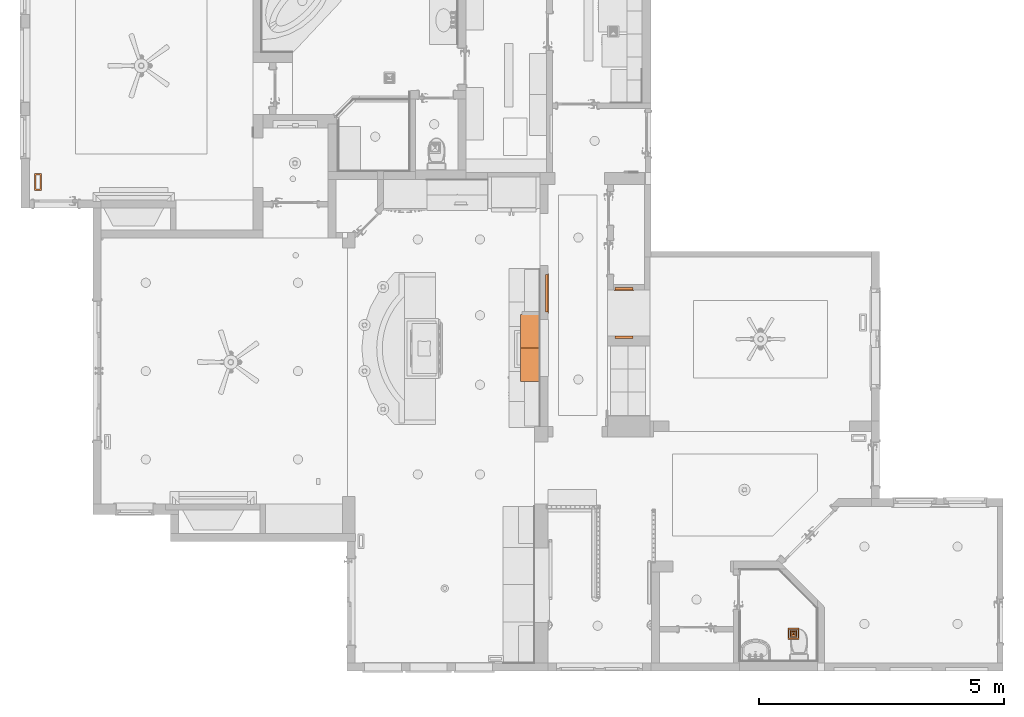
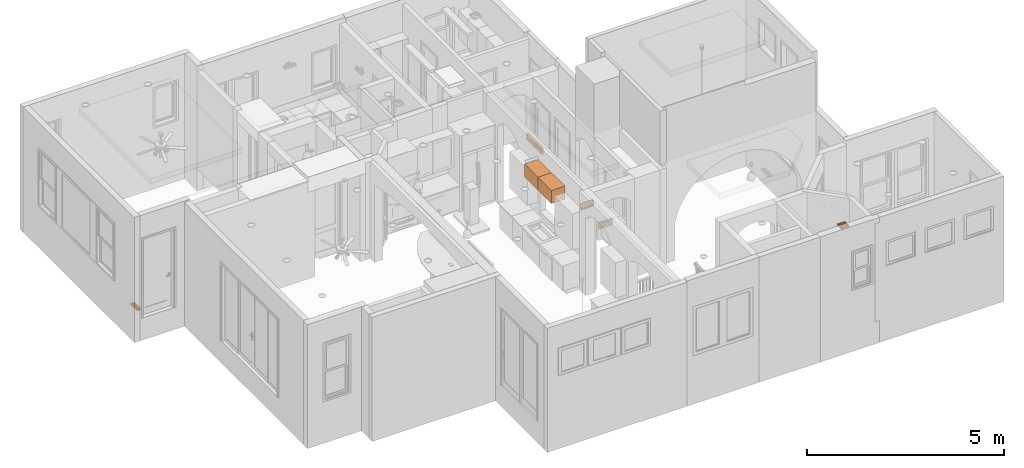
# One storey, part 59 of 77: 7 proxies.
"""IFC2X3 building model written with IfcOpenShell, lengths in inches."""

from ifc_helpers import new_model, entity, si_unit, converted_unit, derived_unit, money_unit, direction, frame, origin_with_axes, place, context, subcontext, project, spatial, open_shell, faceted_brep, surface_model, source, transform, mapped, type_object, element, save


model = new_model("IFC2X3")

# Units and contexts
model_context = context("Model", 3, precision=0.000393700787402, world=origin_with_axes(), true_north=direction((0.0, 1.0)))
body_context = subcontext(model_context, "Body", "Model", "MODEL_VIEW")
ifc_project = project(units=[converted_unit("LENGTHUNIT", "INCH", entity("IfcPositiveLengthMeasure", 0.0254), si_unit("LENGTHUNIT", "METRE"), dimensions=[1, 0, 0, 0, 0, 0, 0]), converted_unit("AREAUNIT", "SQUARE_FOOT", entity("IfcPositiveLengthMeasure", 0.09290304), si_unit("AREAUNIT", "SQUARE_METRE"), dimensions=[2, 0, 0, 0, 0, 0, 0]), si_unit("PLANEANGLEUNIT", "RADIAN"), si_unit("SOLIDANGLEUNIT", "STERADIAN"), money_unit("USD"), converted_unit("TIMEUNIT", "Year", entity("IfcTimeMeasure", 31556926.0), si_unit("TIMEUNIT", "SECOND"), dimensions=[0, 0, 1, 0, 0, 0, 0]), si_unit("MASSUNIT", "GRAM", prefix="KILO"), si_unit("THERMODYNAMICTEMPERATUREUNIT", "DEGREE_CELSIUS"), si_unit("LUMINOUSINTENSITYUNIT", "LUMEN"), si_unit("ENERGYUNIT", "JOULE", prefix="MEGA"), derived_unit("THERMALCONDUCTANCEUNIT", [(si_unit("POWERUNIT", "WATT"), 1), (si_unit("LENGTHUNIT", "METRE"), -1), (si_unit("THERMODYNAMICTEMPERATUREUNIT", "KELVIN"), -1)]), derived_unit("SPECIFICHEATCAPACITYUNIT", [(si_unit("ENERGYUNIT", "JOULE"), 1), (si_unit("MASSUNIT", "GRAM", prefix="KILO"), -1), (si_unit("THERMODYNAMICTEMPERATUREUNIT", "KELVIN"), -1)]), derived_unit("MASSDENSITYUNIT", [(si_unit("MASSUNIT", "GRAM", prefix="KILO"), 1), (si_unit("VOLUMEUNIT", "CUBIC_METRE"), -1)])], contexts=[model_context])

# Site, building, storey
site_placement = place(None, origin_with_axes())
site = spatial("IfcSite", under=ifc_project, at=site_placement, Name="Site", CompositionType="ELEMENT")
building_placement = place(site_placement, origin_with_axes())
building = spatial("IfcBuilding", under=site, at=building_placement, Name="Building", CompositionType="ELEMENT")
storey_placement = place(building_placement, frame((0.0, 0.0, 127.952755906), z_axis=(0.0, 0.0, 1.0), x_axis=(1.0, 0.0, 0.0)))
storey = spatial("IfcBuildingStorey", under=building, at=storey_placement, Name="Second Floor", CompositionType="ELEMENT", Elevation=127.953)

# Proxies
building_element_proxy_type_1 = type_object("IfcBuildingElementProxyType", Name="Rect Floor Register 25", PredefinedType="NOTDEFINED")
shared_shape_1 = source(origin_with_axes(), body_context, "Body", "SurfaceModel", [
    faceted_brep([(6.98818897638, 2.95669291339, 0.0), (-6.98818897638, 2.95669291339, 0.0), (-6.98818897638, 2.95669291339, 0.196850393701), (6.98818897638, 2.95669291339, 0.196850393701), (6.98818897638, -2.95669291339, 0.0), (-6.98818897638, -2.95669291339, 0.0), (5.61023622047, 1.57874015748, 0.0), (-5.61023622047, 1.57874015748, 0.0), (-5.61023622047, -1.57874015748, 0.0), (5.61023622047, -1.57874015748, 0.0), (-6.98818897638, -2.95669291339, 0.196850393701), (6.98818897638, -2.95669291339, 0.196850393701), (5.61023622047, 1.57874015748, 0.196850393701), (5.61023622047, -1.57874015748, 0.196850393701), (-5.61023622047, -1.57874015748, 0.196850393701), (-5.61023622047, 1.57874015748, 0.196850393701)], [[[0, 1, 2, 3]], [[0, 4, 5, 1], [6, 7, 8, 9]], [[1, 5, 10, 2]], [[3, 2, 10, 11], [12, 13, 14, 15]], [[4, 0, 3, 11]], [[5, 4, 11, 10]], [[7, 6, 12, 15]], [[8, 7, 15, 14]], [[9, 8, 14, 13]], [[6, 9, 13, 12]]]),
    surface_model("IfcShellBasedSurfaceModel", [(-5.57086614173, 1.47637795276, -0.787401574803), (5.57086614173, 1.47637795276, -0.787401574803), (5.57086614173, 1.47637795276, 0.196850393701), (-5.57086614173, 1.47637795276, 0.196850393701)], [open_shell([[[0, 1, 2, 3]]])]),
    surface_model("IfcShellBasedSurfaceModel", [(-5.57086614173, 0.492125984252, -0.787401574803), (5.57086614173, 0.492125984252, -0.787401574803), (5.57086614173, 0.492125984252, 0.196850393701), (-5.57086614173, 0.492125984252, 0.196850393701)], [open_shell([[[0, 1, 2, 3]]])]),
    surface_model("IfcShellBasedSurfaceModel", [(-5.57086614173, -0.492125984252, -0.787401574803), (5.57086614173, -0.492125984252, -0.787401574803), (5.57086614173, -0.492125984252, 0.196850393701), (-5.57086614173, -0.492125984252, 0.196850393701)], [open_shell([[[0, 1, 2, 3]]])]),
    surface_model("IfcShellBasedSurfaceModel", [(-5.57086614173, -1.47637795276, -0.787401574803), (5.57086614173, -1.47637795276, -0.787401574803), (5.57086614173, -1.47637795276, 0.196850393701), (-5.57086614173, -1.47637795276, 0.196850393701)], [open_shell([[[0, 1, 2, 3]]])]),
    surface_model("IfcShellBasedSurfaceModel", [(5.41338582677, -1.53937007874, -0.787401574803), (5.41338582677, 1.53937007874, -0.787401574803), (5.41338582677, 1.53937007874, 0.196850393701), (5.41338582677, -1.53937007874, 0.196850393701)], [open_shell([[[0, 1, 2, 3]]])]),
    surface_model("IfcShellBasedSurfaceModel", [(4.42913385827, -1.53937007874, -0.787401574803), (4.42913385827, 1.53937007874, -0.787401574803), (4.42913385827, 1.53937007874, 0.196850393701), (4.42913385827, -1.53937007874, 0.196850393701)], [open_shell([[[0, 1, 2, 3]]])]),
    surface_model("IfcShellBasedSurfaceModel", [(3.44488188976, -1.53937007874, -0.787401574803), (3.44488188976, 1.53937007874, -0.787401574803), (3.44488188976, 1.53937007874, 0.196850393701), (3.44488188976, -1.53937007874, 0.196850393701)], [open_shell([[[0, 1, 2, 3]]])]),
    surface_model("IfcShellBasedSurfaceModel", [(2.46062992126, -1.53937007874, -0.787401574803), (2.46062992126, 1.53937007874, -0.787401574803), (2.46062992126, 1.53937007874, 0.196850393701), (2.46062992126, -1.53937007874, 0.196850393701)], [open_shell([[[0, 1, 2, 3]]])]),
    surface_model("IfcShellBasedSurfaceModel", [(1.47637795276, -1.53937007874, -0.787401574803), (1.47637795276, 1.53937007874, -0.787401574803), (1.47637795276, 1.53937007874, 0.196850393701), (1.47637795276, -1.53937007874, 0.196850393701)], [open_shell([[[0, 1, 2, 3]]])]),
    surface_model("IfcShellBasedSurfaceModel", [(0.492125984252, -1.53937007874, -0.787401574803), (0.492125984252, 1.53937007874, -0.787401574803), (0.492125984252, 1.53937007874, 0.196850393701), (0.492125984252, -1.53937007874, 0.196850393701)], [open_shell([[[0, 1, 2, 3]]])]),
    surface_model("IfcShellBasedSurfaceModel", [(-0.492125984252, -1.53937007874, -0.787401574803), (-0.492125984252, 1.53937007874, -0.787401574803), (-0.492125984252, 1.53937007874, 0.196850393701), (-0.492125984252, -1.53937007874, 0.196850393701)], [open_shell([[[0, 1, 2, 3]]])]),
    surface_model("IfcShellBasedSurfaceModel", [(-1.47637795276, -1.53937007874, -0.787401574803), (-1.47637795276, 1.53937007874, -0.787401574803), (-1.47637795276, 1.53937007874, 0.196850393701), (-1.47637795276, -1.53937007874, 0.196850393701)], [open_shell([[[0, 1, 2, 3]]])]),
    surface_model("IfcShellBasedSurfaceModel", [(-2.46062992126, -1.53937007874, -0.787401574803), (-2.46062992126, 1.53937007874, -0.787401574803), (-2.46062992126, 1.53937007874, 0.196850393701), (-2.46062992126, -1.53937007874, 0.196850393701)], [open_shell([[[0, 1, 2, 3]]])]),
    surface_model("IfcShellBasedSurfaceModel", [(-3.44488188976, -1.53937007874, -0.787401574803), (-3.44488188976, 1.53937007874, -0.787401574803), (-3.44488188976, 1.53937007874, 0.196850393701), (-3.44488188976, -1.53937007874, 0.196850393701)], [open_shell([[[0, 1, 2, 3]]])]),
    surface_model("IfcShellBasedSurfaceModel", [(-4.42913385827, -1.53937007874, -0.787401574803), (-4.42913385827, 1.53937007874, -0.787401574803), (-4.42913385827, 1.53937007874, 0.196850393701), (-4.42913385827, -1.53937007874, 0.196850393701)], [open_shell([[[0, 1, 2, 3]]])]),
    surface_model("IfcShellBasedSurfaceModel", [(-5.41338582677, -1.53937007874, -0.787401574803), (-5.41338582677, 1.53937007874, -0.787401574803), (-5.41338582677, 1.53937007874, 0.196850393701), (-5.41338582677, -1.53937007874, 0.196850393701)], [open_shell([[[0, 1, 2, 3]]])]),
    surface_model("IfcShellBasedSurfaceModel", [(-5.61023622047, -1.57874015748, 0.0), (-5.61023622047, 1.57874015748, 0.0), (-5.61023622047, 1.57874015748, -1.96850393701), (-5.61023622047, -1.57874015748, -1.96850393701), (5.61023622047, 1.57874015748, 0.0), (5.61023622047, 1.57874015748, -1.96850393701), (5.61023622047, -1.57874015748, 0.0), (5.61023622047, -1.57874015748, -1.96850393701)], [open_shell([[[0, 1, 2, 3]], [[1, 4, 5, 2]], [[6, 0, 3, 7]], [[4, 6, 7, 5]]])]),
])
proxy_1_placement = place(storey_placement, frame((233.695525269, 406.416819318, 0.0), z_axis=(0.0, 0.0, 1.0), x_axis=(0.0, -1.0, 0.0)))
element("IfcBuildingElementProxy", 1, at=proxy_1_placement, inside=storey, type_object=building_element_proxy_type_1, Name="FU - 027", context=body_context, shape_type="MappedRepresentation", body=[
    mapped(shared_shape_1, transform((0.0, 0.0, 0.0))),
])
building_element_proxy_type_2 = type_object("IfcBuildingElementProxyType", Name="Sidewall Grille 25", PredefinedType="NOTDEFINED")
shared_shape_2 = source(origin_with_axes(), body_context, "Body", "SurfaceModel", [
    faceted_brep([(8.07775590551, -0.196850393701, -4.1092519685), (-8.07775590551, -0.196850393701, -4.1092519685), (-8.07775590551, 0.0, -4.1092519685), (8.07775590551, 0.0, -4.1092519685), (8.07775590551, -0.196850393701, 4.1092519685), (-8.07775590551, -0.196850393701, 4.1092519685), (7.09350393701, -0.196850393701, -3.125), (-7.09350393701, -0.196850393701, -3.125), (-7.09350393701, -0.196850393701, 3.125), (7.09350393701, -0.196850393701, 3.125), (-8.07775590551, 0.0, 4.1092519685), (8.07775590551, 0.0, 4.1092519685), (7.09350393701, 0.0, -3.125), (7.09350393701, 0.0, 3.125), (-7.09350393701, 0.0, 3.125), (-7.09350393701, 0.0, -3.125)], [[[0, 1, 2, 3]], [[0, 4, 5, 1], [6, 7, 8, 9]], [[1, 5, 10, 2]], [[3, 2, 10, 11], [12, 13, 14, 15]], [[4, 0, 3, 11]], [[5, 4, 11, 10]], [[7, 6, 12, 15]], [[8, 7, 15, 14]], [[9, 8, 14, 13]], [[6, 9, 13, 12]]]),
    surface_model("IfcShellBasedSurfaceModel", [(-7.05413385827, -0.196850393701, -2.95275590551), (7.05413385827, -0.196850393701, -2.95275590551), (7.05413385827, 0.787401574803, -2.95275590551), (-7.05413385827, 0.787401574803, -2.95275590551)], [open_shell([[[0, 1, 2, 3]]])]),
    surface_model("IfcShellBasedSurfaceModel", [(-7.05413385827, -0.196850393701, -0.984251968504), (7.05413385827, -0.196850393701, -0.984251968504), (7.05413385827, 0.787401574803, -0.984251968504), (-7.05413385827, 0.787401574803, -0.984251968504)], [open_shell([[[0, 1, 2, 3]]])]),
    surface_model("IfcShellBasedSurfaceModel", [(-7.05413385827, -0.196850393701, 0.984251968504), (7.05413385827, -0.196850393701, 0.984251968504), (7.05413385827, 0.787401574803, 0.984251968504), (-7.05413385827, 0.787401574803, 0.984251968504)], [open_shell([[[0, 1, 2, 3]]])]),
    surface_model("IfcShellBasedSurfaceModel", [(-7.05413385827, -0.196850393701, 2.95275590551), (7.05413385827, -0.196850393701, 2.95275590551), (7.05413385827, 0.787401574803, 2.95275590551), (-7.05413385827, 0.787401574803, 2.95275590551)], [open_shell([[[0, 1, 2, 3]]])]),
    surface_model("IfcShellBasedSurfaceModel", [(6.88976377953, -0.196850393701, 3.08562992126), (6.88976377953, -0.196850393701, -3.08562992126), (6.88976377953, 0.787401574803, -3.08562992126), (6.88976377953, 0.787401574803, 3.08562992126)], [open_shell([[[0, 1, 2, 3]]])]),
    surface_model("IfcShellBasedSurfaceModel", [(4.92125984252, -0.196850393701, 3.08562992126), (4.92125984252, -0.196850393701, -3.08562992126), (4.92125984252, 0.787401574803, -3.08562992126), (4.92125984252, 0.787401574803, 3.08562992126)], [open_shell([[[0, 1, 2, 3]]])]),
    surface_model("IfcShellBasedSurfaceModel", [(2.95275590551, -0.196850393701, 3.08562992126), (2.95275590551, -0.196850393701, -3.08562992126), (2.95275590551, 0.787401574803, -3.08562992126), (2.95275590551, 0.787401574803, 3.08562992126)], [open_shell([[[0, 1, 2, 3]]])]),
    surface_model("IfcShellBasedSurfaceModel", [(0.984251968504, -0.196850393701, 3.08562992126), (0.984251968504, -0.196850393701, -3.08562992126), (0.984251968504, 0.787401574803, -3.08562992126), (0.984251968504, 0.787401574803, 3.08562992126)], [open_shell([[[0, 1, 2, 3]]])]),
    surface_model("IfcShellBasedSurfaceModel", [(-0.984251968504, -0.196850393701, 3.08562992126), (-0.984251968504, -0.196850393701, -3.08562992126), (-0.984251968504, 0.787401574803, -3.08562992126), (-0.984251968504, 0.787401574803, 3.08562992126)], [open_shell([[[0, 1, 2, 3]]])]),
    surface_model("IfcShellBasedSurfaceModel", [(-2.95275590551, -0.196850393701, 3.08562992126), (-2.95275590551, -0.196850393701, -3.08562992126), (-2.95275590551, 0.787401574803, -3.08562992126), (-2.95275590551, 0.787401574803, 3.08562992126)], [open_shell([[[0, 1, 2, 3]]])]),
    surface_model("IfcShellBasedSurfaceModel", [(-4.92125984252, -0.196850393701, 3.08562992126), (-4.92125984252, -0.196850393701, -3.08562992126), (-4.92125984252, 0.787401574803, -3.08562992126), (-4.92125984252, 0.787401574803, 3.08562992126)], [open_shell([[[0, 1, 2, 3]]])]),
    surface_model("IfcShellBasedSurfaceModel", [(-6.88976377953, -0.196850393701, 3.08562992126), (-6.88976377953, -0.196850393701, -3.08562992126), (-6.88976377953, 0.787401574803, -3.08562992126), (-6.88976377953, 0.787401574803, 3.08562992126)], [open_shell([[[0, 1, 2, 3]]])]),
    surface_model("IfcShellBasedSurfaceModel", [(-7.09350393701, 0.0, -3.125), (-7.09350393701, 0.0, 3.125), (-7.09350393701, 1.96850393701, 3.125), (-7.09350393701, 1.96850393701, -3.125), (7.09350393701, 0.0, 3.125), (7.09350393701, 1.96850393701, 3.125), (7.09350393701, 0.0, -3.125), (7.09350393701, 1.96850393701, -3.125)], [open_shell([[[0, 1, 2, 3]], [[1, 4, 5, 2]], [[6, 0, 3, 7]], [[4, 6, 7, 5]]])]),
])
for number, where, z_axis, x_axis, name in (
    (2, (705.099270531, 282.410013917, 11.6092519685), (0.0, 0.0, 1.0), (-1.0, 0.0, 0.0), "FU - 004"),
    (3, (705.098895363, 319.40717231, 11.6092519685), (0.0, 0.0, 1.0), (1.0, 0.0, 0.0), "FU - 004"),
):
    element("IfcBuildingElementProxy", number, at=place(storey_placement, frame(where, z_axis=z_axis, x_axis=x_axis)), inside=storey, type_object=building_element_proxy_type_2, Name=name, context=body_context, shape_type="MappedRepresentation", body=[
        mapped(shared_shape_2, transform((0.0, 0.0, 0.0))),
    ])
building_element_proxy_type_3 = type_object("IfcBuildingElementProxyType", Name="Square Louver Face Ceiling Diffuser 25", PredefinedType="NOTDEFINED")
shared_shape_3 = source(origin_with_axes(), body_context, "Body", "SurfaceModel", [
    faceted_brep([(4.52755905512, 4.52755905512, 0.0), (-4.52755905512, 4.52755905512, 0.0), (-4.52755905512, 4.52755905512, 0.590551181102), (4.52755905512, 4.52755905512, 0.590551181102), (4.52755905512, -4.52755905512, 0.0), (-4.52755905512, -4.52755905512, 0.0), (3.54330708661, 3.54330708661, 0.0), (-3.54330708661, 3.54330708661, 0.0), (-3.54330708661, -3.54330708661, 0.0), (3.54330708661, -3.54330708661, 0.0), (-4.52755905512, -4.52755905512, 0.590551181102), (4.52755905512, -4.52755905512, 0.590551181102), (3.54330708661, 3.54330708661, 0.590551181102), (3.54330708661, -3.54330708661, 0.590551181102), (-3.54330708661, -3.54330708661, 0.590551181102), (-3.54330708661, 3.54330708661, 0.590551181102)], [[[0, 1, 2, 3]], [[0, 4, 5, 1], [6, 7, 8, 9]], [[1, 5, 10, 2]], [[3, 2, 10, 11], [12, 13, 14, 15]], [[4, 0, 3, 11]], [[5, 4, 11, 10]], [[7, 6, 12, 15]], [[8, 7, 15, 14]], [[9, 8, 14, 13]], [[6, 9, 13, 12]]]),
    surface_model("IfcShellBasedSurfaceModel", [(-4.52755905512, 4.52755905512, 0.590551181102), (-4.52755905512, -4.52755905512, 0.590551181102), (-4.48031496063, -4.48031496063, 1.1811023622), (-4.48031496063, 4.48031496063, 1.1811023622), (4.52755905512, -4.52755905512, 0.590551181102), (4.48031496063, -4.48031496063, 1.1811023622), (4.52755905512, 4.52755905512, 0.590551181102), (4.48031496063, 4.48031496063, 1.1811023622)], [open_shell([[[0, 1, 2, 3]], [[1, 4, 5, 2]], [[6, 0, 3, 7]], [[4, 6, 7, 5]]])]),
    faceted_brep([(0.590551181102, 0.590551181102, 0.0), (-0.590551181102, 0.590551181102, 0.0), (0.0, 0.0, 1.57480314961), (0.590551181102, -0.590551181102, 0.0), (-0.590551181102, -0.590551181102, 0.0)], [[[0, 1, 2]], [[0, 3, 4, 1]], [[1, 4, 2]], [[3, 0, 2]], [[4, 3, 2]]]),
    surface_model("IfcShellBasedSurfaceModel", [(1.1811023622, 1.1811023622, 0.0), (-1.1811023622, 1.1811023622, 0.0), (-0.708661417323, 0.708661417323, 1.57480314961), (0.708661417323, 0.708661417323, 1.57480314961), (-1.1811023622, -1.1811023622, 0.0), (-0.708661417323, -0.708661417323, 1.57480314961), (1.1811023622, -1.1811023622, 0.0), (0.708661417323, -0.708661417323, 1.57480314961)], [open_shell([[[0, 1, 2, 3]], [[1, 4, 5, 2]], [[6, 0, 3, 7]], [[4, 6, 7, 5]]])]),
    surface_model("IfcShellBasedSurfaceModel", [(1.77165354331, 1.77165354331, 0.0), (-1.77165354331, 1.77165354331, 0.0), (-1.29921259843, 1.29921259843, 1.57480314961), (1.29921259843, 1.29921259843, 1.57480314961), (-1.77165354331, -1.77165354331, 0.0), (-1.29921259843, -1.29921259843, 1.57480314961), (1.77165354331, -1.77165354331, 0.0), (1.29921259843, -1.29921259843, 1.57480314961)], [open_shell([[[0, 1, 2, 3]], [[1, 4, 5, 2]], [[6, 0, 3, 7]], [[4, 6, 7, 5]]])]),
    surface_model("IfcShellBasedSurfaceModel", [(2.36220472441, 2.36220472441, 0.0), (-2.36220472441, 2.36220472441, 0.0), (-1.88976377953, 1.88976377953, 1.57480314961), (1.88976377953, 1.88976377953, 1.57480314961), (-2.36220472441, -2.36220472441, 0.0), (-1.88976377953, -1.88976377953, 1.57480314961), (2.36220472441, -2.36220472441, 0.0), (1.88976377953, -1.88976377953, 1.57480314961)], [open_shell([[[0, 1, 2, 3]], [[1, 4, 5, 2]], [[6, 0, 3, 7]], [[4, 6, 7, 5]]])]),
    surface_model("IfcShellBasedSurfaceModel", [(2.95275590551, 2.95275590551, 0.0), (-2.95275590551, 2.95275590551, 0.0), (-2.48031496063, 2.48031496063, 1.57480314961), (2.48031496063, 2.48031496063, 1.57480314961), (-2.95275590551, -2.95275590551, 0.0), (-2.48031496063, -2.48031496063, 1.57480314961), (2.95275590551, -2.95275590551, 0.0), (2.48031496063, -2.48031496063, 1.57480314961)], [open_shell([[[0, 1, 2, 3]], [[1, 4, 5, 2]], [[6, 0, 3, 7]], [[4, 6, 7, 5]]])]),
    surface_model("IfcShellBasedSurfaceModel", [(4.48031496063, -4.48031496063, 1.1811023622), (4.48031496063, 4.48031496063, 1.1811023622), (4.48031496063, 4.48031496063, 1.6811023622), (4.48031496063, -4.48031496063, 1.6811023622), (-4.48031496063, 4.48031496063, 1.1811023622), (-4.48031496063, 4.48031496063, 1.6811023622), (-4.48031496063, -4.48031496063, 1.1811023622), (-4.48031496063, -4.48031496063, 1.6811023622)], [open_shell([[[0, 1, 2, 3]], [[1, 4, 5, 2]], [[6, 0, 3, 7]], [[4, 6, 7, 5]]])]),
])
proxy_2_placement = place(storey_placement, frame((841.46208434, 42.9108632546, 105.905511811), z_axis=(0.0, 0.0, 1.0), x_axis=(1.0, 0.0, 0.0)))
element("IfcBuildingElementProxy", 4, at=proxy_2_placement, inside=storey, type_object=building_element_proxy_type_3, Name="FU - 007", context=body_context, shape_type="MappedRepresentation", body=[
    mapped(shared_shape_3, transform((0.0, 0.0, 0.0))),
])
building_element_proxy_type_4 = type_object("IfcBuildingElementProxyType", Name="Wall Cabinet Block 25", PredefinedType="NOTDEFINED")
shared_shape_4 = source(origin_with_axes(), body_context, "Body", "Brep", [
    faceted_brep([(0.75, -14.9606299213, 67.5974409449), (26.218503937, -14.9606299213, 67.5974409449), (26.218503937, -14.9606299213, 68.3474409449), (0.75, -14.9606299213, 68.3474409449), (0.75, -0.75, 67.5974409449), (26.218503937, -0.75, 67.5974409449), (26.218503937, -0.75, 68.3474409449), (0.75, -0.75, 68.3474409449)], [[[0, 1, 2, 3]], [[0, 4, 5, 1]], [[1, 5, 6, 2]], [[3, 2, 6, 7]], [[4, 0, 3, 7]], [[5, 4, 7, 6]]]),
    faceted_brep([(0.0393700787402, -14.9606299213, 60.0393700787), (13.4448818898, -14.9606299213, 60.0393700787), (13.4448818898, -15.7106299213, 60.0393700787), (0.0393700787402, -15.7106299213, 60.0393700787), (0.0393700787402, -14.9606299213, 75.905511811), (13.4448818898, -14.9606299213, 75.905511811), (13.4448818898, -15.7106299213, 75.905511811), (0.0393700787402, -15.7106299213, 75.905511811)], [[[0, 1, 2, 3]], [[0, 4, 5, 1]], [[1, 5, 6, 2]], [[3, 2, 6, 7]], [[4, 0, 3, 7]], [[5, 4, 7, 6]]]),
    faceted_brep([(26.9291338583, -14.9606299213, 60.0393700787), (26.9291338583, -15.7106299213, 60.0393700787), (13.5236220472, -15.7106299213, 60.0393700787), (13.5236220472, -14.9606299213, 60.0393700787), (26.9291338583, -14.9606299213, 75.905511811), (26.9291338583, -15.7106299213, 75.905511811), (13.5236220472, -15.7106299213, 75.905511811), (13.5236220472, -14.9606299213, 75.905511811)], [[[0, 1, 2, 3]], [[4, 5, 1, 0]], [[1, 5, 6, 2]], [[3, 2, 6, 7]], [[0, 3, 7, 4]], [[7, 6, 5, 4]]]),
    faceted_brep([(0.75, -14.9606299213, 60.0), (26.218503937, -14.9606299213, 60.0), (26.218503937, -14.9606299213, 60.75), (0.75, -14.9606299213, 60.75), (0.75, 0.0, 60.0), (26.218503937, 0.0, 60.0), (26.218503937, 0.0, 60.75), (0.75, 0.0, 60.75)], [[[0, 1, 2, 3]], [[0, 4, 5, 1]], [[1, 5, 6, 2]], [[3, 2, 6, 7]], [[4, 0, 3, 7]], [[5, 4, 7, 6]]]),
    faceted_brep([(0.75, -14.9606299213, 75.1948818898), (26.218503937, -14.9606299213, 75.1948818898), (26.218503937, -14.9606299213, 75.9448818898), (0.75, -14.9606299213, 75.9448818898), (0.75, 0.0, 75.1948818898), (26.218503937, 0.0, 75.1948818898), (26.218503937, 0.0, 75.9448818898), (0.75, 0.0, 75.9448818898)], [[[0, 1, 2, 3]], [[0, 4, 5, 1]], [[1, 5, 6, 2]], [[3, 2, 6, 7]], [[4, 0, 3, 7]], [[5, 4, 7, 6]]]),
    faceted_brep([(0.0, 0.0, 60.0), (0.0, -14.9606299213, 60.0), (0.0, -14.9606299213, 75.9448818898), (0.0, 0.0, 75.9448818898), (0.75, 0.0, 60.0), (0.75, -14.9606299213, 60.0), (0.75, -14.9606299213, 75.9448818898), (0.75, 0.0, 75.9448818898)], [[[0, 1, 2, 3]], [[0, 4, 5, 1]], [[1, 5, 6, 2]], [[3, 2, 6, 7]], [[4, 0, 3, 7]], [[5, 4, 7, 6]]]),
    faceted_brep([(26.968503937, -14.9606299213, 60.0), (26.968503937, 0.0, 60.0), (26.968503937, 0.0, 75.9448818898), (26.968503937, -14.9606299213, 75.9448818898), (26.218503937, -14.9606299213, 60.0), (26.218503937, 0.0, 60.0), (26.218503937, 0.0, 75.9448818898), (26.218503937, -14.9606299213, 75.9448818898)], [[[0, 1, 2, 3]], [[0, 4, 5, 1]], [[1, 5, 6, 2]], [[3, 2, 6, 7]], [[4, 0, 3, 7]], [[5, 4, 7, 6]]]),
    faceted_brep([(26.218503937, -0.375, 60.75), (0.75, -0.375, 60.75), (0.75, -0.375, 75.1948818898), (26.218503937, -0.375, 75.1948818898), (26.218503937, -0.75, 60.75), (0.75, -0.75, 60.75), (0.75, -0.75, 75.1948818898), (26.218503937, -0.75, 75.1948818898)], [[[0, 1, 2, 3]], [[0, 4, 5, 1]], [[1, 5, 6, 2]], [[3, 2, 6, 7]], [[4, 0, 3, 7]], [[5, 4, 7, 6]]]),
])
for number, where, z_axis, x_axis, name in (
    (5, (637.475934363, 299.914084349, 27.0), (0.0, 0.0, 1.0), (0.0, -1.0, 0.0), "OBJ-21"),
    (6, (637.468461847, 272.945511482, 27.0), (0.0, 0.0, 1.0), (0.0, -1.0, 0.0), "OBJ-21"),
):
    element("IfcBuildingElementProxy", number, at=place(storey_placement, frame(where, z_axis=z_axis, x_axis=x_axis)), inside=storey, type_object=building_element_proxy_type_4, Name=name, context=body_context, shape_type="MappedRepresentation", body=[
        mapped(shared_shape_4, transform((0.0, 0.0, 0.0))),
    ])
shared_shape_5 = source(origin_with_axes(), body_context, "Body", "SurfaceModel", [
    faceted_brep([(16.1486220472, -0.196850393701, -4.6092519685), (-16.1486220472, -0.196850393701, -4.6092519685), (-16.1486220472, 0.0, -4.6092519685), (16.1486220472, 0.0, -4.6092519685), (16.1486220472, -0.196850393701, 4.6092519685), (-16.1486220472, -0.196850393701, 4.6092519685), (15.1643700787, -0.196850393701, -3.625), (-15.1643700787, -0.196850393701, -3.625), (-15.1643700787, -0.196850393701, 3.625), (15.1643700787, -0.196850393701, 3.625), (-16.1486220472, 0.0, 4.6092519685), (16.1486220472, 0.0, 4.6092519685), (15.1643700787, 0.0, -3.625), (15.1643700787, 0.0, 3.625), (-15.1643700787, 0.0, 3.625), (-15.1643700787, 0.0, -3.625)], [[[0, 1, 2, 3]], [[0, 4, 5, 1], [6, 7, 8, 9]], [[1, 5, 10, 2]], [[3, 2, 10, 11], [12, 13, 14, 15]], [[4, 0, 3, 11]], [[5, 4, 11, 10]], [[7, 6, 12, 15]], [[8, 7, 15, 14]], [[9, 8, 14, 13]], [[6, 9, 13, 12]]]),
    surface_model("IfcShellBasedSurfaceModel", [(-15.125, -0.196850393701, -2.95275590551), (15.125, -0.196850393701, -2.95275590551), (15.125, 0.787401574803, -2.95275590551), (-15.125, 0.787401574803, -2.95275590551)], [open_shell([[[0, 1, 2, 3]]])]),
    surface_model("IfcShellBasedSurfaceModel", [(-15.125, -0.196850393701, -0.984251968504), (15.125, -0.196850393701, -0.984251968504), (15.125, 0.787401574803, -0.984251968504), (-15.125, 0.787401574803, -0.984251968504)], [open_shell([[[0, 1, 2, 3]]])]),
    surface_model("IfcShellBasedSurfaceModel", [(-15.125, -0.196850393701, 0.984251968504), (15.125, -0.196850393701, 0.984251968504), (15.125, 0.787401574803, 0.984251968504), (-15.125, 0.787401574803, 0.984251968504)], [open_shell([[[0, 1, 2, 3]]])]),
    surface_model("IfcShellBasedSurfaceModel", [(-15.125, -0.196850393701, 2.95275590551), (15.125, -0.196850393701, 2.95275590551), (15.125, 0.787401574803, 2.95275590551), (-15.125, 0.787401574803, 2.95275590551)], [open_shell([[[0, 1, 2, 3]]])]),
    surface_model("IfcShellBasedSurfaceModel", [(14.7637795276, -0.196850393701, 3.58562992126), (14.7637795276, -0.196850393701, -3.58562992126), (14.7637795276, 0.787401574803, -3.58562992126), (14.7637795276, 0.787401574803, 3.58562992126)], [open_shell([[[0, 1, 2, 3]]])]),
    surface_model("IfcShellBasedSurfaceModel", [(12.7952755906, -0.196850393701, 3.58562992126), (12.7952755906, -0.196850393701, -3.58562992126), (12.7952755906, 0.787401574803, -3.58562992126), (12.7952755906, 0.787401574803, 3.58562992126)], [open_shell([[[0, 1, 2, 3]]])]),
    surface_model("IfcShellBasedSurfaceModel", [(10.8267716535, -0.196850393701, 3.58562992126), (10.8267716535, -0.196850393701, -3.58562992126), (10.8267716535, 0.787401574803, -3.58562992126), (10.8267716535, 0.787401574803, 3.58562992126)], [open_shell([[[0, 1, 2, 3]]])]),
    surface_model("IfcShellBasedSurfaceModel", [(8.85826771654, -0.196850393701, 3.58562992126), (8.85826771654, -0.196850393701, -3.58562992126), (8.85826771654, 0.787401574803, -3.58562992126), (8.85826771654, 0.787401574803, 3.58562992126)], [open_shell([[[0, 1, 2, 3]]])]),
    surface_model("IfcShellBasedSurfaceModel", [(6.88976377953, -0.196850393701, 3.58562992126), (6.88976377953, -0.196850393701, -3.58562992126), (6.88976377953, 0.787401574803, -3.58562992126), (6.88976377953, 0.787401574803, 3.58562992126)], [open_shell([[[0, 1, 2, 3]]])]),
    surface_model("IfcShellBasedSurfaceModel", [(4.92125984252, -0.196850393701, 3.58562992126), (4.92125984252, -0.196850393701, -3.58562992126), (4.92125984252, 0.787401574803, -3.58562992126), (4.92125984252, 0.787401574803, 3.58562992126)], [open_shell([[[0, 1, 2, 3]]])]),
    surface_model("IfcShellBasedSurfaceModel", [(2.95275590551, -0.196850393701, 3.58562992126), (2.95275590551, -0.196850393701, -3.58562992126), (2.95275590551, 0.787401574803, -3.58562992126), (2.95275590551, 0.787401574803, 3.58562992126)], [open_shell([[[0, 1, 2, 3]]])]),
    surface_model("IfcShellBasedSurfaceModel", [(0.984251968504, -0.196850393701, 3.58562992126), (0.984251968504, -0.196850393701, -3.58562992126), (0.984251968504, 0.787401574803, -3.58562992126), (0.984251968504, 0.787401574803, 3.58562992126)], [open_shell([[[0, 1, 2, 3]]])]),
    surface_model("IfcShellBasedSurfaceModel", [(-0.984251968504, -0.196850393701, 3.58562992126), (-0.984251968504, -0.196850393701, -3.58562992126), (-0.984251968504, 0.787401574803, -3.58562992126), (-0.984251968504, 0.787401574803, 3.58562992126)], [open_shell([[[0, 1, 2, 3]]])]),
    surface_model("IfcShellBasedSurfaceModel", [(-2.95275590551, -0.196850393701, 3.58562992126), (-2.95275590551, -0.196850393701, -3.58562992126), (-2.95275590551, 0.787401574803, -3.58562992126), (-2.95275590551, 0.787401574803, 3.58562992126)], [open_shell([[[0, 1, 2, 3]]])]),
    surface_model("IfcShellBasedSurfaceModel", [(-4.92125984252, -0.196850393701, 3.58562992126), (-4.92125984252, -0.196850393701, -3.58562992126), (-4.92125984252, 0.787401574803, -3.58562992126), (-4.92125984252, 0.787401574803, 3.58562992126)], [open_shell([[[0, 1, 2, 3]]])]),
    surface_model("IfcShellBasedSurfaceModel", [(-6.88976377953, -0.196850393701, 3.58562992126), (-6.88976377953, -0.196850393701, -3.58562992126), (-6.88976377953, 0.787401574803, -3.58562992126), (-6.88976377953, 0.787401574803, 3.58562992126)], [open_shell([[[0, 1, 2, 3]]])]),
    surface_model("IfcShellBasedSurfaceModel", [(-8.85826771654, -0.196850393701, 3.58562992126), (-8.85826771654, -0.196850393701, -3.58562992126), (-8.85826771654, 0.787401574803, -3.58562992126), (-8.85826771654, 0.787401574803, 3.58562992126)], [open_shell([[[0, 1, 2, 3]]])]),
    surface_model("IfcShellBasedSurfaceModel", [(-10.8267716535, -0.196850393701, 3.58562992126), (-10.8267716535, -0.196850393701, -3.58562992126), (-10.8267716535, 0.787401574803, -3.58562992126), (-10.8267716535, 0.787401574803, 3.58562992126)], [open_shell([[[0, 1, 2, 3]]])]),
    surface_model("IfcShellBasedSurfaceModel", [(-12.7952755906, -0.196850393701, 3.58562992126), (-12.7952755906, -0.196850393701, -3.58562992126), (-12.7952755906, 0.787401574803, -3.58562992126), (-12.7952755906, 0.787401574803, 3.58562992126)], [open_shell([[[0, 1, 2, 3]]])]),
    surface_model("IfcShellBasedSurfaceModel", [(-14.7637795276, -0.196850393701, 3.58562992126), (-14.7637795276, -0.196850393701, -3.58562992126), (-14.7637795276, 0.787401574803, -3.58562992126), (-14.7637795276, 0.787401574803, 3.58562992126)], [open_shell([[[0, 1, 2, 3]]])]),
    surface_model("IfcShellBasedSurfaceModel", [(-15.1643700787, 0.0, -3.625), (-15.1643700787, 0.0, 3.625), (-15.1643700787, 1.96850393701, 3.625), (-15.1643700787, 1.96850393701, -3.625), (15.1643700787, 0.0, 3.625), (15.1643700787, 1.96850393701, 3.625), (15.1643700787, 0.0, -3.625), (15.1643700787, 1.96850393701, -3.625)], [open_shell([[[0, 1, 2, 3]], [[1, 4, 5, 2]], [[6, 0, 3, 7]], [[4, 6, 7, 5]]])]),
])
proxy_3_placement = place(storey_placement, frame((643.989643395, 316.829170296, 109.609251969), z_axis=(0.0, 0.0, 1.0), x_axis=(0.0, 1.0, 0.0)))
element("IfcBuildingElementProxy", 7, at=proxy_3_placement, inside=storey, type_object=building_element_proxy_type_2, Name="FU - 004", context=body_context, shape_type="MappedRepresentation", body=[
    mapped(shared_shape_5, transform((0.0, 0.0, 0.0))),
])

save(model, "model.ifc")
